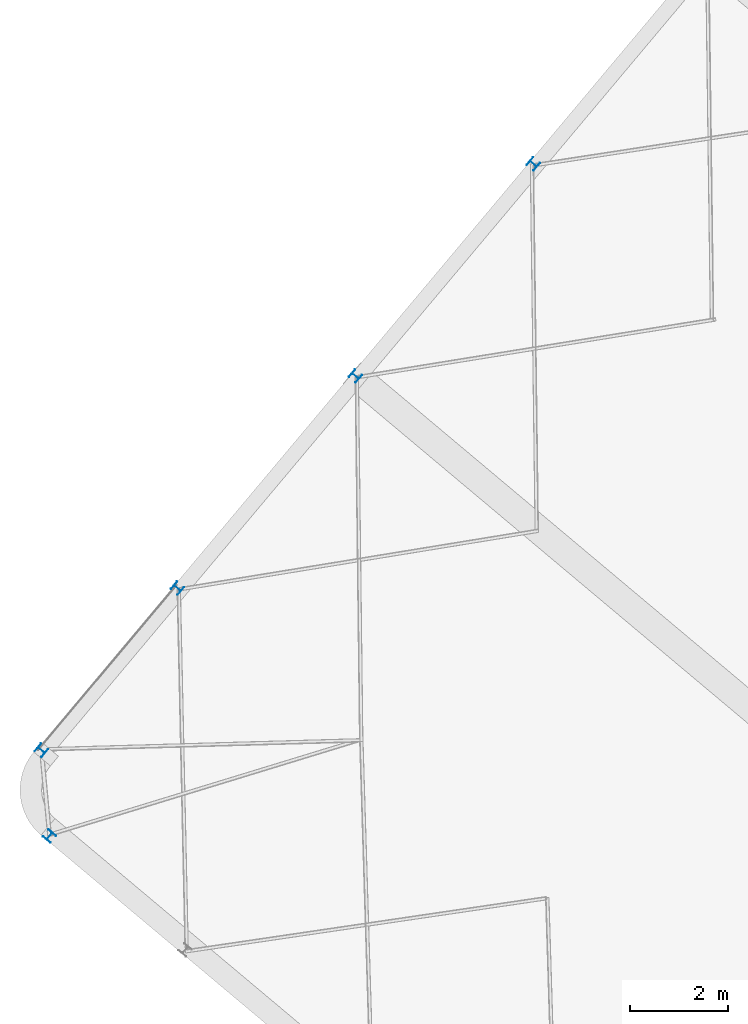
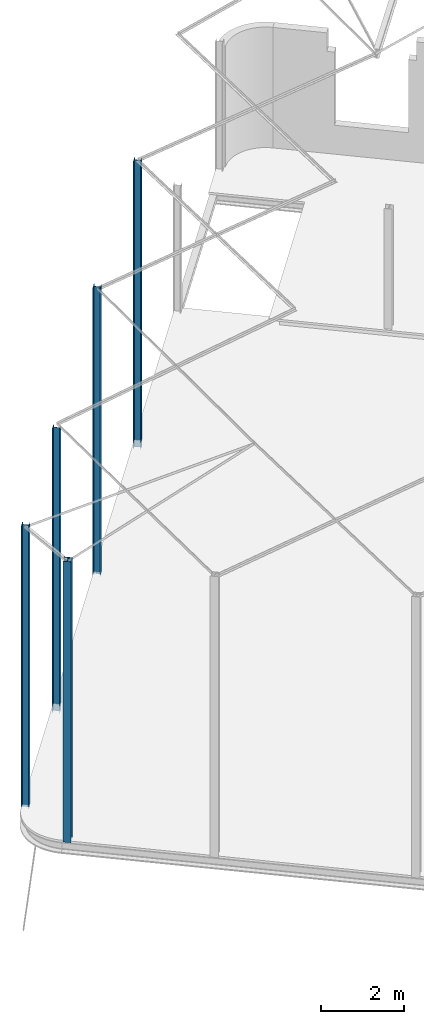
# One storey, part 6 of 25: 5 columns.
"""IFC2X3 building model written with IfcOpenShell, lengths in millimetres."""

from ifc_helpers import new_model, entity, si_unit, converted_unit, derived_unit, direction, frame, frame_2d, origin, origin_2d_with_axis, place, context, subcontext, project, spatial, i_section, extrude, source, transform, mapped, material, type_object, type_shapes, element, save


model = new_model("IFC2X3")

# Units and contexts
model_context = context("Model", 3, precision=0.01, world=origin(), true_north=direction((6.123031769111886e-17, 1.0)))
body_context = subcontext(model_context, "Body", "Model", "MODEL_VIEW")
ifc_project = project(units=[si_unit("LENGTHUNIT", "METRE", prefix="MILLI"), si_unit("AREAUNIT", "SQUARE_METRE"), si_unit("VOLUMEUNIT", "CUBIC_METRE"), derived_unit("MASSDENSITYUNIT", [(si_unit("MASSUNIT", "GRAM", prefix="KILO"), 1), (si_unit("LENGTHUNIT", "METRE"), -3)]), si_unit("MASSUNIT", "GRAM", prefix="KILO"), converted_unit("PLANEANGLEUNIT", "DEGREE", entity("IfcPlaneAngleMeasure", 0.017453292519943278), si_unit("PLANEANGLEUNIT", "RADIAN"), dimensions=[0, 0, 0, 0, 0, 0, 0])], contexts=[model_context])

# Site, building, storey
site_placement = place(None, origin())
site = spatial("IfcSite", under=ifc_project, at=site_placement, Name="Default", CompositionType="ELEMENT")
building_placement = place(site_placement, origin())
building = spatial("IfcBuilding", under=site, at=building_placement, Name="AT constructie", CompositionType="ELEMENT")
storey_placement = place(building_placement, frame((0.0, 0.0, 3864.0)))
storey = spatial("IfcBuildingStorey", under=building, at=storey_placement, Name="01 eerste verdieping", CompositionType="ELEMENT", Elevation=3864.0)

# Columns
ifc_material = material(Name="h2_staal_S355")
column_type_1 = type_object("IfcColumnType", Name="kolom_gen_HEA200", PredefinedType="COLUMN", material=ifc_material)
shared_shape_1 = source(origin(), body_context, "Body", "SweptSolid", [
    extrude(i_section(OverallWidth=199.99999999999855, OverallDepth=190.00000000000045, WebThickness=6.499999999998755, FlangeThickness=9.999999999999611, FilletRadius=18.0, at=frame_2d((-1.2434497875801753e-12, -1.0516032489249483e-12), x_axis=(1.0, 0.0))), frame((7181.54855474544, 35335.31371650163, 3603.0), z_axis=(0.0, 0.0, 1.0), x_axis=(0.7660444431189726, -0.6427876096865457, 0.0)), (0.0, 0.0, 1.0), 8259.999999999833),
])
type_shapes(column_type_1, [shared_shape_1])
column_1_placement = place(storey_placement, frame((0.0, 0.0, -3864.0)))
element("IfcColumn", 1, at=column_1_placement, inside=storey, type_object=column_type_1, material=ifc_material, Name="NLRS_28_SC_TLB_kolom HEA_gen_AT:kolom_gen_HEA200", ObjectType="NLRS_28_SC_TLB_kolom HEA_gen_AT:kolom_gen_HEA200", context=body_context, shape_type="MappedRepresentation", body=[
    mapped(shared_shape_1, transform((0.0, 0.0, 0.0), scale=1.0)),
])
column_type_2 = type_object("IfcColumnType", Name="kolom_gen_HEA200", PredefinedType="COLUMN", material=ifc_material)
shared_shape_2 = source(origin(), body_context, "Body", "SweptSolid", [
    extrude(i_section(OverallWidth=199.99999999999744, OverallDepth=189.9999999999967, WebThickness=6.499999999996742, FlangeThickness=9.999999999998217, FilletRadius=18.0, at=frame_2d((1.3926637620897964e-12, -1.6626700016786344e-12), x_axis=(1.0, 0.0))), frame((13396.203898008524, 44682.417022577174, 3593.0), z_axis=(0.0, 0.0, 1.0), x_axis=(0.64278760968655, 0.7660444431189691, 0.0)), (0.0, 0.0, 1.0), 8449.999999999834),
])
type_shapes(column_type_2, [shared_shape_2])
column_2_placement = place(storey_placement, frame((0.0, 0.0, -3864.0)))
element("IfcColumn", 2, at=column_2_placement, inside=storey, type_object=column_type_2, material=ifc_material, Name="NLRS_28_SC_TLB_kolom HEA_gen_AT:kolom_gen_HEA200", ObjectType="NLRS_28_SC_TLB_kolom HEA_gen_AT:kolom_gen_HEA200", context=body_context, shape_type="MappedRepresentation", body=[
    mapped(shared_shape_2, transform((0.0, 0.0, 0.0), scale=1.0)),
])
column_type_3 = type_object("IfcColumnType", Name="kolom_gen_HEA200", PredefinedType="COLUMN", material=ifc_material)
shared_shape_3 = source(origin(), body_context, "Body", "SweptSolid", [
    extrude(i_section(OverallWidth=200.00000000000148, OverallDepth=189.99999999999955, WebThickness=6.499999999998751, FlangeThickness=9.999999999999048, FilletRadius=18.0, at=frame_2d((2.9629632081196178e-12, 3.197442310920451e-12), x_axis=(1.0, 0.0))), frame((7016.536871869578, 37079.425924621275, 3593.0), z_axis=(0.0, 0.0, 1.0), x_axis=(0.6427876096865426, 0.7660444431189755, 0.0)), (0.0, 0.0, 1.0), 8291.89999999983),
])
type_shapes(column_type_3, [shared_shape_3])
column_3_placement = place(storey_placement, frame((0.0, 0.0, -3864.0)))
element("IfcColumn", 3, at=column_3_placement, inside=storey, type_object=column_type_3, material=ifc_material, Name="NLRS_28_SC_TLB_kolom HEA_gen_AT:kolom_gen_HEA200", ObjectType="NLRS_28_SC_TLB_kolom HEA_gen_AT:kolom_gen_HEA200", context=body_context, shape_type="MappedRepresentation", body=[
    mapped(shared_shape_3, transform((0.0, 0.0, 0.0), scale=1.0)),
])
column_type_4 = type_object("IfcColumnType", Name="kolom_gen_HEA200", PredefinedType="COLUMN", material=ifc_material)
shared_shape_4 = source(origin(), body_context, "Body", "SweptSolid", [
    extrude(i_section(OverallWidth=199.99999999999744, OverallDepth=189.9999999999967, WebThickness=6.499999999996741, FlangeThickness=9.999999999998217, FilletRadius=18.0, at=frame_2d((5.236699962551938e-12, 7.219114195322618e-12), x_axis=(1.0, 0.0))), frame((17011.88420249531, 48991.41701512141, 3444.0), z_axis=(0.0, 0.0, 1.0), x_axis=(0.64278760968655, 0.7660444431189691, 0.0)), (0.0, 0.0, 1.0), 8440.89999999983),
])
type_shapes(column_type_4, [shared_shape_4])
column_4_placement = place(storey_placement, frame((0.0, 0.0, -3864.0)))
element("IfcColumn", 4, at=column_4_placement, inside=storey, type_object=column_type_4, material=ifc_material, Name="NLRS_28_SC_TLB_kolom HEA_gen_AT:kolom_gen_HEA200", ObjectType="NLRS_28_SC_TLB_kolom HEA_gen_AT:kolom_gen_HEA200", context=body_context, shape_type="MappedRepresentation", body=[
    mapped(shared_shape_4, transform((0.0, 0.0, 0.0), scale=1.0)),
])
column_type_5 = type_object("IfcColumnType", Name="kolom_gen_HEA200", PredefinedType="COLUMN", material=ifc_material)
shared_shape_5 = source(origin(), body_context, "Body", "SweptSolid", [
    extrude(i_section(OverallWidth=199.99999999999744, OverallDepth=189.9999999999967, WebThickness=6.499999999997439, FlangeThickness=9.999999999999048, FilletRadius=18.0, at=origin_2d_with_axis()), frame((9780.5235935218, 40373.41703003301, 3444.0), z_axis=(0.0, 0.0, 1.0), x_axis=(0.64278760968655, 0.7660444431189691, 0.0)), (0.0, 0.0, 1.0), 8336.378113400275),
])
type_shapes(column_type_5, [shared_shape_5])
column_5_placement = place(storey_placement, frame((0.0, 0.0, -3864.0)))
element("IfcColumn", 5, at=column_5_placement, inside=storey, type_object=column_type_5, material=ifc_material, Name="NLRS_28_SC_TLB_kolom HEA_gen_AT:kolom_gen_HEA200", ObjectType="NLRS_28_SC_TLB_kolom HEA_gen_AT:kolom_gen_HEA200", context=body_context, shape_type="MappedRepresentation", body=[
    mapped(shared_shape_5, transform((0.0, 0.0, 0.0), scale=1.0)),
])

save(model, "model.ifc")
